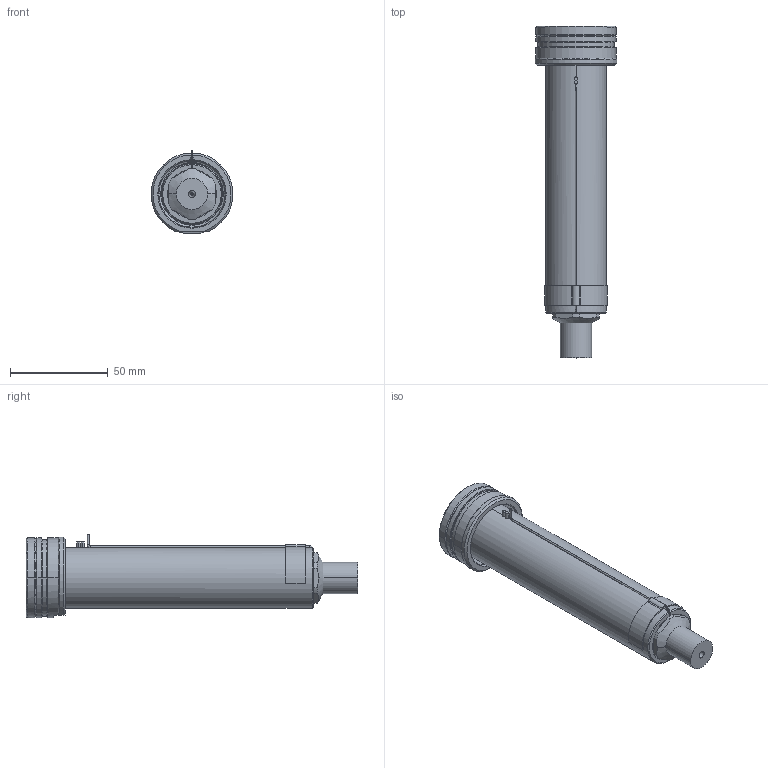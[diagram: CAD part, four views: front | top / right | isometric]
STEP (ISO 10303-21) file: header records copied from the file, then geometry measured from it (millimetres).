
FILE_DESCRIPTION((''),'2;1');
FILE_NAME('EO12_PG-FBE_WR_140_SW','2024-02-19T12:05:10',('sundharh'),(''),'CREO PARAMETRIC BY PTC INC, 2023154','CREO PARAMETRIC BY PTC INC, 2023154','');
FILE_SCHEMA(('CONFIG_CONTROL_DESIGN'));
Length unit declared in the file: millimetre
Products named in the file (1): EO12_PG-FBE_WR_140_SW
Bounding box: 41.85 x 170 x 43 mm (x, y, z)
Volume: 109088.3 mm3; surface area: 30515.2 mm2
Topology: 2 solids, 3 shells, 219 faces, 577 edges, 354 vertices
Faces by surface type: cylinder 82, plane 59, cone 45, torus 27, sphere 3, bspline 3
Entity records: 7853 total; most frequent: CARTESIAN_POINT 2312, DIRECTION 1229, ORIENTED_EDGE 1142, EDGE_CURVE 571, AXIS2_PLACEMENT_3D 517, VERTEX_POINT 354, CIRCLE 301, EDGE_LOOP 237
